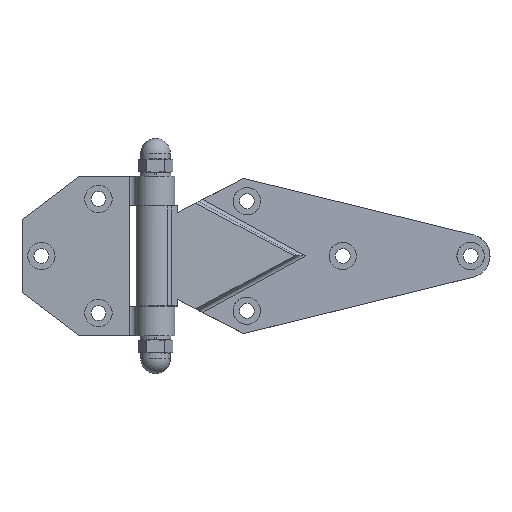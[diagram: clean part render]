
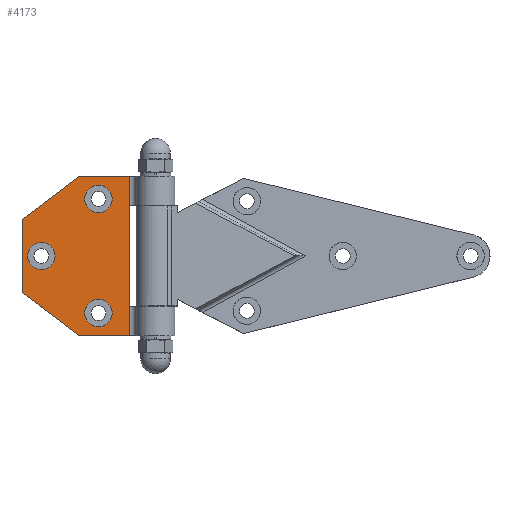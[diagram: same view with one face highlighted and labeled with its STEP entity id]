
A CAD part, top view. The second image highlights one B-rep face of the part: STEP entity #4173.
In plain terms, the highlighted planar face has unit normal (0, 0, 1).
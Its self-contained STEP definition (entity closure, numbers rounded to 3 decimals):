
#22 = EDGE_CURVE ( 'NONE', #10738, #10222, #2826, .T. ) ;
#78 = CARTESIAN_POINT ( 'NONE',  ( -11.5, 22.1, 7. ) ) ;
#110 = VECTOR ( 'NONE', #3665, 1000. ) ;
#132 = VECTOR ( 'NONE', #3763, 1000. ) ;
#337 = ORIENTED_EDGE ( 'NONE', *, *, #3555, .T. ) ;
#407 = EDGE_LOOP ( 'NONE', ( #4046, #4017, #1659, #3560, #4076, #1549, #2354, #337, #1631, #7074 ) ) ;
#450 = LINE ( 'NONE', #4228, #2008 ) ;
#533 = CARTESIAN_POINT ( 'NONE',  ( -50., 0., 7. ) ) ;
#573 = DIRECTION ( 'NONE',  ( 0., -1., 0. ) ) ;
#717 = CARTESIAN_POINT ( 'NONE',  ( -33.5, -35., 7. ) ) ;
#728 = DIRECTION ( 'NONE',  ( 1., 0., 0. ) ) ;
#735 = CARTESIAN_POINT ( 'NONE',  ( -11.402, 35., 7. ) ) ;
#865 = CARTESIAN_POINT ( 'NONE',  ( -11.402, -22.1, 7. ) ) ;
#886 = CARTESIAN_POINT ( 'NONE',  ( -31., 25., 7. ) ) ;
#1135 = CARTESIAN_POINT ( 'NONE',  ( -33.5, 35., 7. ) ) ;
#1239 = DIRECTION ( 'NONE',  ( 1., 0., 0. ) ) ;
#1327 = VERTEX_POINT ( 'NONE', #4368 ) ;
#1388 = VERTEX_POINT ( 'NONE', #717 ) ;
#1532 = EDGE_CURVE ( 'NONE', #8669, #6647, #4763, .T. ) ;
#1549 = ORIENTED_EDGE ( 'NONE', *, *, #8385, .F. ) ;
#1586 = EDGE_CURVE ( 'NONE', #5346, #1327, #9214, .T. ) ;
#1595 = VECTOR ( 'NONE', #10748, 1000. ) ;
#1631 = ORIENTED_EDGE ( 'NONE', *, *, #5166, .F. ) ;
#1659 = ORIENTED_EDGE ( 'NONE', *, *, #3866, .T. ) ;
#1919 = DIRECTION ( 'NONE',  ( 0., 0., 1. ) ) ;
#2008 = VECTOR ( 'NONE', #573, 1000. ) ;
#2155 = DIRECTION ( 'NONE',  ( 0., -1., 0. ) ) ;
#2162 = CIRCLE ( 'NONE', #2579, 6. ) ;
#2258 = CARTESIAN_POINT ( 'NONE',  ( -44., 0., 7. ) ) ;
#2292 = AXIS2_PLACEMENT_3D ( 'NONE', #11288, #2764, #5464 ) ;
#2346 = CARTESIAN_POINT ( 'NONE',  ( -49.347, 22.956, 7. ) ) ;
#2354 = ORIENTED_EDGE ( 'NONE', *, *, #2870, .F. ) ;
#2543 = VERTEX_POINT ( 'NONE', #735 ) ;
#2579 = AXIS2_PLACEMENT_3D ( 'NONE', #3838, #1919, #9429 ) ;
#2694 = VERTEX_POINT ( 'NONE', #9141 ) ;
#2747 = DIRECTION ( 'NONE',  ( 0., 0., 1. ) ) ;
#2764 = DIRECTION ( 'NONE',  ( 0., 0., -1. ) ) ;
#2826 = CIRCLE ( 'NONE', #12223, 6. ) ;
#2870 = EDGE_CURVE ( 'NONE', #3648, #6980, #5053, .T. ) ;
#3163 = ORIENTED_EDGE ( 'NONE', *, *, #22, .F. ) ;
#3248 = EDGE_LOOP ( 'NONE', ( #8032, #9841 ) ) ;
#3350 = CARTESIAN_POINT ( 'NONE',  ( -50., 0., 7. ) ) ;
#3481 = DIRECTION ( 'NONE',  ( 0., 0., 1. ) ) ;
#3555 = EDGE_CURVE ( 'NONE', #3648, #10085, #10872, .T. ) ;
#3560 = ORIENTED_EDGE ( 'NONE', *, *, #11073, .T. ) ;
#3590 = CARTESIAN_POINT ( 'NONE',  ( -11.5, 35., 7. ) ) ;
#3633 = CARTESIAN_POINT ( 'NONE',  ( -25., 25., 7. ) ) ;
#3648 = VERTEX_POINT ( 'NONE', #8243 ) ;
#3665 = DIRECTION ( 'NONE',  ( 1., 0., 0. ) ) ;
#3682 = DIRECTION ( 'NONE',  ( 1., 0., 0. ) ) ;
#3694 = DIRECTION ( 'NONE',  ( 0., 0., 1. ) ) ;
#3763 = DIRECTION ( 'NONE',  ( -0.796, 0.605, 0. ) ) ;
#3801 = AXIS2_PLACEMENT_3D ( 'NONE', #4946, #5997, #1239 ) ;
#3804 = DIRECTION ( 'NONE',  ( 0., -1., 0. ) ) ;
#3820 = EDGE_CURVE ( 'NONE', #10222, #10738, #2162, .T. ) ;
#3838 = CARTESIAN_POINT ( 'NONE',  ( -25., 25., 7. ) ) ;
#3866 = EDGE_CURVE ( 'NONE', #11165, #7177, #4539, .T. ) ;
#4017 = ORIENTED_EDGE ( 'NONE', *, *, #8494, .T. ) ;
#4046 = ORIENTED_EDGE ( 'NONE', *, *, #1532, .F. ) ;
#4055 = VECTOR ( 'NONE', #7790, 1000. ) ;
#4076 = ORIENTED_EDGE ( 'NONE', *, *, #12212, .F. ) ;
#4173 = ADVANCED_FACE ( 'NONE', ( #12344, #5722, #8345, #9350 ), #9534, .F. ) ;
#4228 = CARTESIAN_POINT ( 'NONE',  ( -11.402, 35., 7. ) ) ;
#4246 = DIRECTION ( 'NONE',  ( 0., 0., 1. ) ) ;
#4309 = DIRECTION ( 'NONE',  ( 1., 0., 0. ) ) ;
#4313 = EDGE_CURVE ( 'NONE', #11149, #5468, #6877, .T. ) ;
#4368 = CARTESIAN_POINT ( 'NONE',  ( -31., -25., 7. ) ) ;
#4386 = VECTOR ( 'NONE', #3682, 1000. ) ;
#4539 = LINE ( 'NONE', #3590, #5372 ) ;
#4763 = LINE ( 'NONE', #5706, #11600 ) ;
#4946 = CARTESIAN_POINT ( 'NONE',  ( -25., -25., 7. ) ) ;
#4965 = CARTESIAN_POINT ( 'NONE',  ( -58.5, 22.1, 7. ) ) ;
#5053 = LINE ( 'NONE', #2346, #1595 ) ;
#5166 = EDGE_CURVE ( 'NONE', #1388, #10085, #12348, .T. ) ;
#5195 = CARTESIAN_POINT ( 'NONE',  ( -56., 0., 7. ) ) ;
#5346 = VERTEX_POINT ( 'NONE', #6018 ) ;
#5372 = VECTOR ( 'NONE', #12360, 1000. ) ;
#5464 = DIRECTION ( 'NONE',  ( 0., -1., 0. ) ) ;
#5468 = VERTEX_POINT ( 'NONE', #5195 ) ;
#5475 = CIRCLE ( 'NONE', #11658, 6. ) ;
#5706 = CARTESIAN_POINT ( 'NONE',  ( -11.402, 35., 7. ) ) ;
#5722 = FACE_BOUND ( 'NONE', #8979, .T. ) ;
#5922 = LINE ( 'NONE', #10799, #4055 ) ;
#5997 = DIRECTION ( 'NONE',  ( 0., 0., 1. ) ) ;
#6018 = CARTESIAN_POINT ( 'NONE',  ( -19., -25., 7. ) ) ;
#6162 = ORIENTED_EDGE ( 'NONE', *, *, #3820, .F. ) ;
#6187 = AXIS2_PLACEMENT_3D ( 'NONE', #11331, #2747, #10401 ) ;
#6488 = VECTOR ( 'NONE', #2155, 1000. ) ;
#6499 = AXIS2_PLACEMENT_3D ( 'NONE', #533, #4246, #4309 ) ;
#6647 = VERTEX_POINT ( 'NONE', #11217 ) ;
#6877 = CIRCLE ( 'NONE', #6499, 6. ) ;
#6963 = CARTESIAN_POINT ( 'NONE',  ( -58.5, 35., 7. ) ) ;
#6980 = VERTEX_POINT ( 'NONE', #1135 ) ;
#7074 = ORIENTED_EDGE ( 'NONE', *, *, #11903, .T. ) ;
#7177 = VERTEX_POINT ( 'NONE', #78 ) ;
#7440 = EDGE_CURVE ( 'NONE', #5468, #11149, #5475, .T. ) ;
#7524 = DIRECTION ( 'NONE',  ( 1., 0., 0. ) ) ;
#7652 = LINE ( 'NONE', #4965, #9219 ) ;
#7790 = DIRECTION ( 'NONE',  ( -1., 0., 0. ) ) ;
#7992 = CIRCLE ( 'NONE', #6187, 6. ) ;
#8032 = ORIENTED_EDGE ( 'NONE', *, *, #1586, .F. ) ;
#8243 = CARTESIAN_POINT ( 'NONE',  ( -58.5, 16., 7. ) ) ;
#8345 = FACE_BOUND ( 'NONE', #8886, .T. ) ;
#8385 = EDGE_CURVE ( 'NONE', #6980, #2543, #8558, .T. ) ;
#8486 = ORIENTED_EDGE ( 'NONE', *, *, #7440, .F. ) ;
#8494 = EDGE_CURVE ( 'NONE', #8669, #11165, #5922, .T. ) ;
#8514 = LINE ( 'NONE', #11267, #4386 ) ;
#8558 = LINE ( 'NONE', #12187, #110 ) ;
#8669 = VERTEX_POINT ( 'NONE', #865 ) ;
#8886 = EDGE_LOOP ( 'NONE', ( #6162, #3163 ) ) ;
#8979 = EDGE_LOOP ( 'NONE', ( #10963, #8486 ) ) ;
#9141 = CARTESIAN_POINT ( 'NONE',  ( -11.402, 22.1, 7. ) ) ;
#9214 = CIRCLE ( 'NONE', #3801, 6. ) ;
#9219 = VECTOR ( 'NONE', #7524, 1000. ) ;
#9350 = FACE_OUTER_BOUND ( 'NONE', #407, .T. ) ;
#9429 = DIRECTION ( 'NONE',  ( 1., 0., 0. ) ) ;
#9534 = PLANE ( 'NONE',  #2292 ) ;
#9778 = CARTESIAN_POINT ( 'NONE',  ( -11.5, -22.1, 7. ) ) ;
#9841 = ORIENTED_EDGE ( 'NONE', *, *, #11911, .F. ) ;
#10062 = DIRECTION ( 'NONE',  ( 1., 0., 0. ) ) ;
#10085 = VERTEX_POINT ( 'NONE', #10737 ) ;
#10222 = VERTEX_POINT ( 'NONE', #12235 ) ;
#10401 = DIRECTION ( 'NONE',  ( 1., 0., 0. ) ) ;
#10737 = CARTESIAN_POINT ( 'NONE',  ( -58.5, -16., 7. ) ) ;
#10738 = VERTEX_POINT ( 'NONE', #886 ) ;
#10748 = DIRECTION ( 'NONE',  ( 0.796, 0.605, 0. ) ) ;
#10799 = CARTESIAN_POINT ( 'NONE',  ( -58.5, -22.1, 7. ) ) ;
#10872 = LINE ( 'NONE', #6963, #6488 ) ;
#10963 = ORIENTED_EDGE ( 'NONE', *, *, #4313, .F. ) ;
#11073 = EDGE_CURVE ( 'NONE', #7177, #2694, #7652, .T. ) ;
#11149 = VERTEX_POINT ( 'NONE', #2258 ) ;
#11165 = VERTEX_POINT ( 'NONE', #9778 ) ;
#11217 = CARTESIAN_POINT ( 'NONE',  ( -11.402, -35., 7. ) ) ;
#11267 = CARTESIAN_POINT ( 'NONE',  ( -58.5, -35., 7. ) ) ;
#11288 = CARTESIAN_POINT ( 'NONE',  ( -58.5, 35., 7. ) ) ;
#11331 = CARTESIAN_POINT ( 'NONE',  ( -25., -25., 7. ) ) ;
#11600 = VECTOR ( 'NONE', #3804, 1000. ) ;
#11658 = AXIS2_PLACEMENT_3D ( 'NONE', #3350, #3481, #10062 ) ;
#11903 = EDGE_CURVE ( 'NONE', #1388, #6647, #8514, .T. ) ;
#11911 = EDGE_CURVE ( 'NONE', #1327, #5346, #7992, .T. ) ;
#12166 = CARTESIAN_POINT ( 'NONE',  ( -83.069, 2.672, 7. ) ) ;
#12187 = CARTESIAN_POINT ( 'NONE',  ( -58.5, 35., 7. ) ) ;
#12212 = EDGE_CURVE ( 'NONE', #2543, #2694, #450, .T. ) ;
#12223 = AXIS2_PLACEMENT_3D ( 'NONE', #3633, #3694, #728 ) ;
#12235 = CARTESIAN_POINT ( 'NONE',  ( -19., 25., 7. ) ) ;
#12344 = FACE_BOUND ( 'NONE', #3248, .T. ) ;
#12348 = LINE ( 'NONE', #12166, #132 ) ;
#12360 = DIRECTION ( 'NONE',  ( 0., 1., 0. ) ) ;
